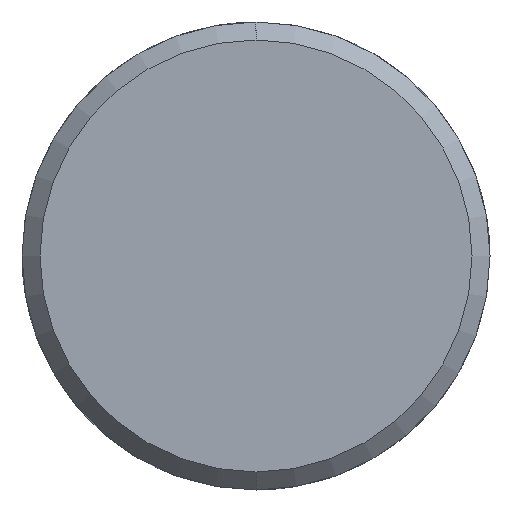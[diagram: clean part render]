
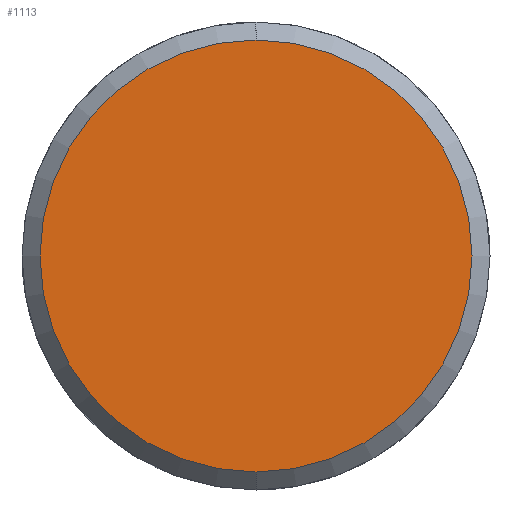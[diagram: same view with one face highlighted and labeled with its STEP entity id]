
A CAD part, left-side view. The second image highlights one B-rep face of the part: STEP entity #1113.
In plain terms, the highlighted planar face has unit normal (-1, 0, 0).
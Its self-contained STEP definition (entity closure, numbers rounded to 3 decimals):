
#1045=CARTESIAN_POINT('Vertex',(-5.,0.,-12.)) ;
#1048=CARTESIAN_POINT('Axis2P3D Location',(-5.,0.,0.)) ;
#1052=CARTESIAN_POINT('Vertex',(-5.,12.,0.)) ;
#1055=CARTESIAN_POINT('Axis2P3D Location',(-5.,0.,0.)) ;
#1059=CARTESIAN_POINT('Vertex',(-5.,0.,12.)) ;
#1081=CARTESIAN_POINT('Axis2P3D Location',(-5.,0.,0.)) ;
#1085=CARTESIAN_POINT('Vertex',(-5.,-12.,0.)) ;
#1088=CARTESIAN_POINT('Axis2P3D Location',(-5.,0.,0.)) ;
#1102=CARTESIAN_POINT('Axis2P3D Location',(-5.,0.,0.)) ;
#1049=DIRECTION('Axis2P3D Direction',(1.,0.,-0.)) ;
#1056=DIRECTION('Axis2P3D Direction',(1.,0.,-0.)) ;
#1082=DIRECTION('Axis2P3D Direction',(1.,0.,-0.)) ;
#1089=DIRECTION('Axis2P3D Direction',(1.,0.,-0.)) ;
#1103=DIRECTION('Axis2P3D Direction',(1.,0.,-0.)) ;
#1104=DIRECTION('Axis2P3D XDirection',(-0.,0.,-1.)) ;
#1050=AXIS2_PLACEMENT_3D('Circle Axis2P3D',#1048,#1049,$) ;
#1057=AXIS2_PLACEMENT_3D('Circle Axis2P3D',#1055,#1056,$) ;
#1083=AXIS2_PLACEMENT_3D('Circle Axis2P3D',#1081,#1082,$) ;
#1090=AXIS2_PLACEMENT_3D('Circle Axis2P3D',#1088,#1089,$) ;
#1105=AXIS2_PLACEMENT_3D('Plane Axis2P3D',#1102,#1103,#1104) ;
#1108=ORIENTED_EDGE('',*,*,#1054,.F.) ;
#1109=ORIENTED_EDGE('',*,*,#1092,.F.) ;
#1110=ORIENTED_EDGE('',*,*,#1087,.F.) ;
#1111=ORIENTED_EDGE('',*,*,#1061,.F.) ;
#1113=ADVANCED_FACE('351-16X46X100',(#1112),#1106,.F.) ;
#1051=CIRCLE('generated circle',#1050,12.) ;
#1058=CIRCLE('generated circle',#1057,12.) ;
#1084=CIRCLE('generated circle',#1083,12.) ;
#1091=CIRCLE('generated circle',#1090,12.) ;
#1054=EDGE_CURVE('',#1046,#1053,#1051,.T.) ;
#1061=EDGE_CURVE('',#1053,#1060,#1058,.T.) ;
#1087=EDGE_CURVE('',#1060,#1086,#1084,.T.) ;
#1092=EDGE_CURVE('',#1086,#1046,#1091,.T.) ;
#1107=EDGE_LOOP('',(#1108,#1109,#1110,#1111)) ;
#1112=FACE_OUTER_BOUND('',#1107,.T.) ;
#1106=PLANE('Plane',#1105) ;
#1046=VERTEX_POINT('',#1045) ;
#1053=VERTEX_POINT('',#1052) ;
#1060=VERTEX_POINT('',#1059) ;
#1086=VERTEX_POINT('',#1085) ;
